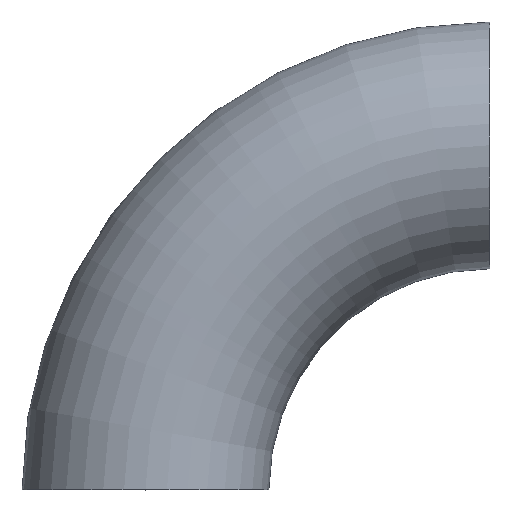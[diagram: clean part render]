
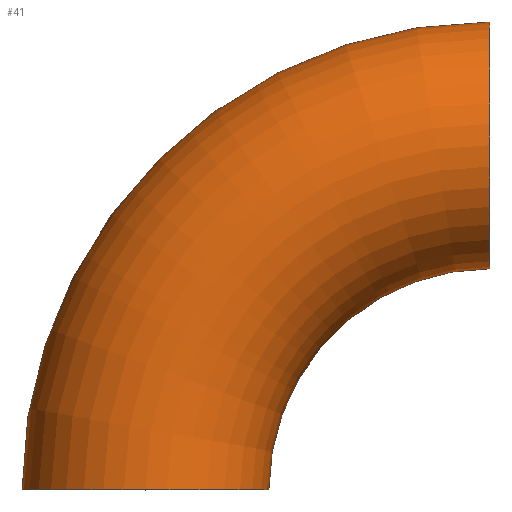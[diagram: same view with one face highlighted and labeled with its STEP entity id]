
A CAD part, top view. The second image highlights one B-rep face of the part: STEP entity #41.
In plain terms, the highlighted toroidal (fillet/blend) face has major radius 381 mm and minor radius 136.5 mm.
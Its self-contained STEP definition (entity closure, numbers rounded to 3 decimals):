
#3 = EDGE_LOOP ( 'NONE', ( #205, #129, #177, #122 ) ) ;
#5 = VERTEX_POINT ( 'NONE', #219 ) ;
#6 = CARTESIAN_POINT ( 'NONE',  ( 136.5, 0., 0. ) ) ;
#7 = DIRECTION ( 'NONE',  ( 0., 0., 1. ) ) ;
#9 = CIRCLE ( 'NONE', #150, 517.5 ) ;
#12 = DIRECTION ( 'NONE',  ( 0., 0., 1. ) ) ;
#27 = DIRECTION ( 'NONE',  ( 1., 0., 0. ) ) ;
#30 = CARTESIAN_POINT ( 'NONE',  ( 381., 381., 0. ) ) ;
#38 = AXIS2_PLACEMENT_3D ( 'NONE', #50, #147, #7 ) ;
#41 = ADVANCED_FACE ( 'NONE', ( #134 ), #92, .T. ) ;
#50 = CARTESIAN_POINT ( 'NONE',  ( 0., 0., 0. ) ) ;
#53 = CARTESIAN_POINT ( 'NONE',  ( -136.5, 0., 0. ) ) ;
#56 = DIRECTION ( 'NONE',  ( 0., 0., 1. ) ) ;
#59 = EDGE_CURVE ( 'NONE', #93, #64, #226, .T. ) ;
#64 = VERTEX_POINT ( 'NONE', #6 ) ;
#69 = AXIS2_PLACEMENT_3D ( 'NONE', #174, #99, #221 ) ;
#92 = TOROIDAL_SURFACE ( 'NONE', #139, 381., 136.5 ) ;
#93 = VERTEX_POINT ( 'NONE', #141 ) ;
#99 = DIRECTION ( 'NONE',  ( 0., 0., 1. ) ) ;
#101 = CARTESIAN_POINT ( 'NONE',  ( 381., 0., 0. ) ) ;
#111 = EDGE_CURVE ( 'NONE', #220, #64, #242, .T. ) ;
#122 = ORIENTED_EDGE ( 'NONE', *, *, #59, .F. ) ;
#126 = EDGE_CURVE ( 'NONE', #5, #93, #173, .T. ) ;
#129 = ORIENTED_EDGE ( 'NONE', *, *, #239, .T. ) ;
#134 = FACE_OUTER_BOUND ( 'NONE', #3, .T. ) ;
#136 = AXIS2_PLACEMENT_3D ( 'NONE', #30, #27, #12 ) ;
#139 = AXIS2_PLACEMENT_3D ( 'NONE', #101, #178, #198 ) ;
#141 = CARTESIAN_POINT ( 'NONE',  ( 381., 244.5, 0. ) ) ;
#147 = DIRECTION ( 'NONE',  ( 0., 1., 0. ) ) ;
#150 = AXIS2_PLACEMENT_3D ( 'NONE', #201, #56, #233 ) ;
#173 = CIRCLE ( 'NONE', #136, 136.5 ) ;
#174 = CARTESIAN_POINT ( 'NONE',  ( 381., 0., 0. ) ) ;
#177 = ORIENTED_EDGE ( 'NONE', *, *, #111, .T. ) ;
#178 = DIRECTION ( 'NONE',  ( 0., 0., 1. ) ) ;
#198 = DIRECTION ( 'NONE',  ( 1., 0., 0. ) ) ;
#201 = CARTESIAN_POINT ( 'NONE',  ( 381., 0., 0. ) ) ;
#205 = ORIENTED_EDGE ( 'NONE', *, *, #126, .F. ) ;
#219 = CARTESIAN_POINT ( 'NONE',  ( 381., 517.5, 0. ) ) ;
#220 = VERTEX_POINT ( 'NONE', #53 ) ;
#221 = DIRECTION ( 'NONE',  ( 1., 0., 0. ) ) ;
#226 = CIRCLE ( 'NONE', #69, 244.5 ) ;
#233 = DIRECTION ( 'NONE',  ( 1., 0., 0. ) ) ;
#239 = EDGE_CURVE ( 'NONE', #5, #220, #9, .T. ) ;
#242 = CIRCLE ( 'NONE', #38, 136.5 ) ;
